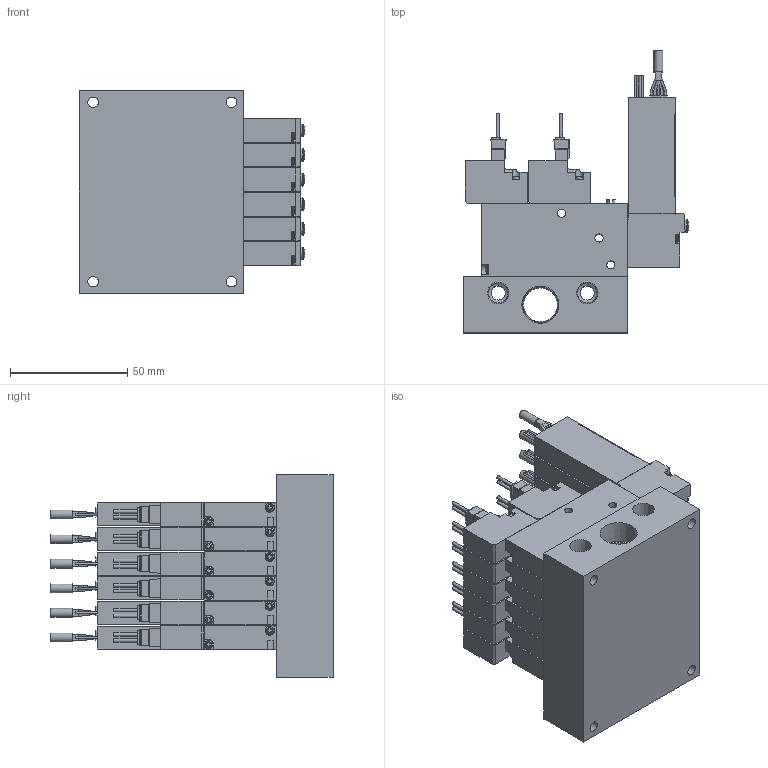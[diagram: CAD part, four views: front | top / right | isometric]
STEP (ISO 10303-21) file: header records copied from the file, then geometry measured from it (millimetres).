
FILE_DESCRIPTION(('STEP AP203'),'1');
FILE_NAME('BMPV42M10.10P.10PS5A(B)606.stp','2025-04-30T05:50:31',(' '),(' '),'Spatial InterOp 3D',' ',' ');
FILE_SCHEMA(('CONFIG_CONTROL_DESIGN'));
Length unit declared in the file: millimetre
Products named in the file (9): BMPV42M10.10P.10PS5A(B)606; VACUUM VALVE FUNCTION MPV42-A; VACUUM SENSOR MPV42-10; UNIT-MPV42; MC4-M6
Assembly tree (25 placements, depth 2):
  BMPV42M10.10P.10PS5A(B)606
    VACUUM VALVE FUNCTION MPV42-A  x10
    VACUUM SENSOR MPV42-10  x5
    UNIT-MPV42  x5
    MC4-M6
    VACUUM VALVE FUNCTION MPV42-A
    VACUUM VALVE FUNCTION MPV42-A
    UNIT-MPV42
    VACUUM SENSOR MPV42-10
Bounding box: 96.35 x 120.3 x 86.5 mm (x, y, z)
Volume: 382711 mm3; surface area: 125832.8 mm2
Topology: 25 solids, 25 shells, 2361 faces, 6358 edges, 4215 vertices
Faces by surface type: plane 1830, cylinder 431, cone 40, sphere 30, torus 30
Full cylindrical faces by diameter (mm): 0.9 x24, 1.4 x24, 1.8 x6, 2.2 x12, 3 x24, 3.5 x66, 3.8 x6, 4.134 x12, 4.5 x4, 5 x6, 5.5 x6, 6 x2, 8.2 x4, 14.5 x1
Entity records: 22170 total; most frequent: CARTESIAN_POINT 4274, DIRECTION 3536, ORIENTED_EDGE 3476, EDGE_CURVE 1738, LINE 1324, VECTOR 1324, VERTEX_POINT 1208, AXIS2_PLACEMENT_3D 1106
